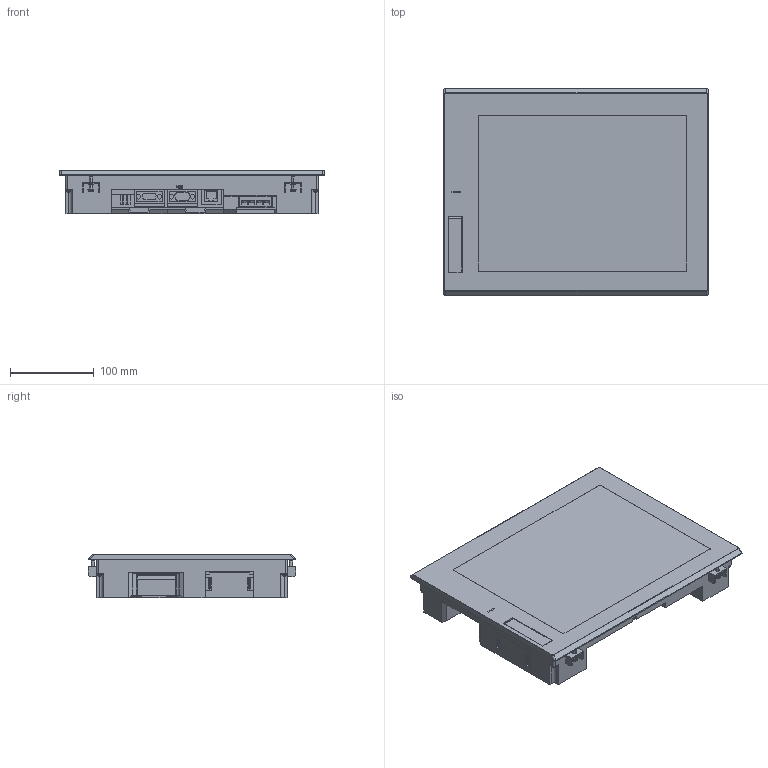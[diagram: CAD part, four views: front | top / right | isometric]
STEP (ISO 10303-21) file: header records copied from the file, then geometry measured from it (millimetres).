
FILE_DESCRIPTION((''),'2;1');
FILE_NAME('GT2512_A_ASM','2014-11-06T',('MM05496'),(''),'PRO/ENGINEER BY PARAMETRIC TECHNOLOGY CORPORATION, 2011490','PRO/ENGINEER BY PARAMETRIC TECHNOLOGY CORPORATION, 2011490','');
FILE_SCHEMA(('CONFIG_CONTROL_DESIGN'));
Length unit declared in the file: millimetre
Products named in the file (7): GT2512_1; COVER_1_1; COVER_2_1; COVER_3_1; TORITUKE_1; GT2512_ASM_ASM; GT2512_A_ASM
Assembly tree (10 placements, depth 3):
  GT2512_A_ASM
    GT2512_ASM_ASM
      GT2512_1
      COVER_1_1  x2
      COVER_2_1
      COVER_3_1
      TORITUKE_1  x4
Bounding box: 316 x 247 x 52.05 mm (x, y, z)
Volume: 3113152.8 mm3; surface area: 265826.5 mm2
Topology: 9 solids, 13 shells, 715 faces, 1982 edges, 1320 vertices
Faces by surface type: plane 472, cylinder 161, cone 32, sphere 26, torus 20, bspline 4
Entity records: 21464 total; most frequent: CARTESIAN_POINT 5517, ORIENTED_EDGE 3384, DIRECTION 3146, EDGE_CURVE 1692, VECTOR 1192, LINE 1192, VERTEX_POINT 1142, AXIS2_PLACEMENT_3D 977
